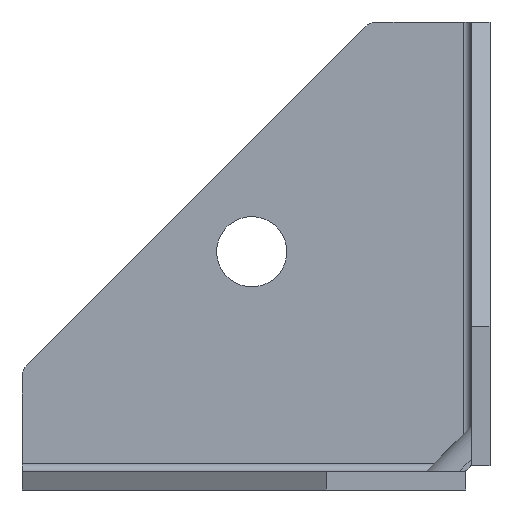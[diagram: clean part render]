
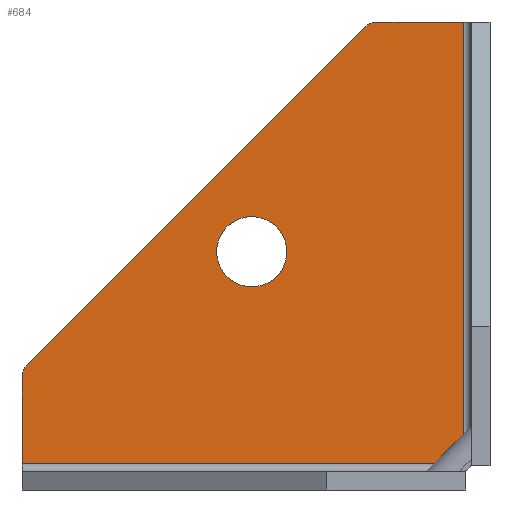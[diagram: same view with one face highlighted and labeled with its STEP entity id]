
A CAD part, left-side view. The second image highlights one B-rep face of the part: STEP entity #684.
In plain terms, the highlighted planar face has unit normal (-1, 0, 0).
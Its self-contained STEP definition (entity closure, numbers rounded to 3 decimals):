
#39=PLANE('',#763);
#55=LINE('',#1016,#120);
#75=LINE('',#1072,#140);
#100=LINE('',#1150,#165);
#101=LINE('',#1156,#166);
#102=LINE('',#1157,#167);
#120=VECTOR('',#809,1000.);
#140=VECTOR('',#855,1000.);
#165=VECTOR('',#938,1000.);
#166=VECTOR('',#947,1000.);
#167=VECTOR('',#948,1000.);
#310=ORIENTED_EDGE('',*,*,#456,.F.);
#311=ORIENTED_EDGE('',*,*,#414,.T.);
#312=ORIENTED_EDGE('',*,*,#457,.T.);
#313=ORIENTED_EDGE('',*,*,#458,.T.);
#314=ORIENTED_EDGE('',*,*,#385,.T.);
#315=ORIENTED_EDGE('',*,*,#452,.T.);
#316=ORIENTED_EDGE('',*,*,#454,.T.);
#317=ORIENTED_EDGE('',*,*,#455,.T.);
#385=EDGE_CURVE('',#482,#481,#55,.T.);
#414=EDGE_CURVE('',#505,#504,#75,.T.);
#452=EDGE_CURVE('',#481,#527,#555,.T.);
#454=EDGE_CURVE('',#527,#528,#100,.T.);
#455=EDGE_CURVE('',#528,#505,#556,.T.);
#456=EDGE_CURVE('',#529,#529,#557,.T.);
#457=EDGE_CURVE('',#504,#516,#101,.T.);
#458=EDGE_CURVE('',#516,#482,#102,.T.);
#481=VERTEX_POINT('',#1015);
#482=VERTEX_POINT('',#1017);
#504=VERTEX_POINT('',#1071);
#505=VERTEX_POINT('',#1073);
#516=VERTEX_POINT('',#1109);
#527=VERTEX_POINT('',#1145);
#528=VERTEX_POINT('',#1149);
#529=VERTEX_POINT('',#1155);
#555=CIRCLE('',#759,2.);
#556=CIRCLE('',#762,2.);
#557=CIRCLE('',#764,4.5);
#588=EDGE_LOOP('',(#310));
#589=EDGE_LOOP('',(#311,#312,#313,#314,#315,#316,#317));
#632=FACE_BOUND('',#588,.T.);
#633=FACE_BOUND('',#589,.T.);
#684=ADVANCED_FACE('',(#632,#633),#39,.T.);
#759=AXIS2_PLACEMENT_3D('',#1146,#933,#934);
#762=AXIS2_PLACEMENT_3D('',#1152,#941,#942);
#763=AXIS2_PLACEMENT_3D('',#1153,#943,#944);
#764=AXIS2_PLACEMENT_3D('',#1154,#945,#946);
#809=DIRECTION('',(0.,1.,0.));
#855=DIRECTION('',(0.,0.,-1.));
#933=DIRECTION('',(-1.,0.,0.));
#934=DIRECTION('',(0.,1.,0.));
#938=DIRECTION('',(0.,0.707,-0.707));
#941=DIRECTION('',(-1.,0.,0.));
#942=DIRECTION('',(0.,1.,0.));
#943=DIRECTION('',(-1.,0.,0.));
#944=DIRECTION('',(0.,0.,1.));
#945=DIRECTION('',(-1.,0.,0.));
#946=DIRECTION('',(0.,1.,0.));
#947=DIRECTION('',(0.,-1.,0.));
#948=DIRECTION('',(0.,0.,1.));
#1015=CARTESIAN_POINT('',(-2.4,14.502,60.));
#1016=CARTESIAN_POINT('',(-2.4,0.,60.));
#1017=CARTESIAN_POINT('',(-2.4,3.4,60.));
#1071=CARTESIAN_POINT('',(-2.4,60.,3.4));
#1072=CARTESIAN_POINT('',(-2.4,60.,14.502));
#1073=CARTESIAN_POINT('',(-2.4,60.,14.502));
#1109=CARTESIAN_POINT('',(-2.4,3.4,3.4));
#1145=CARTESIAN_POINT('',(-2.4,15.916,59.414));
#1146=CARTESIAN_POINT('',(-2.4,14.502,58.));
#1149=CARTESIAN_POINT('',(-2.4,59.414,15.916));
#1150=CARTESIAN_POINT('',(-2.4,15.916,59.414));
#1152=CARTESIAN_POINT('',(-2.4,58.,14.502));
#1153=CARTESIAN_POINT('',(-2.4,14.502,58.));
#1154=CARTESIAN_POINT('',(-2.4,30.55,30.55));
#1155=CARTESIAN_POINT('',(-2.4,35.05,30.55));
#1156=CARTESIAN_POINT('',(-2.4,2.4,3.4));
#1157=CARTESIAN_POINT('',(-2.4,3.4,60.));
